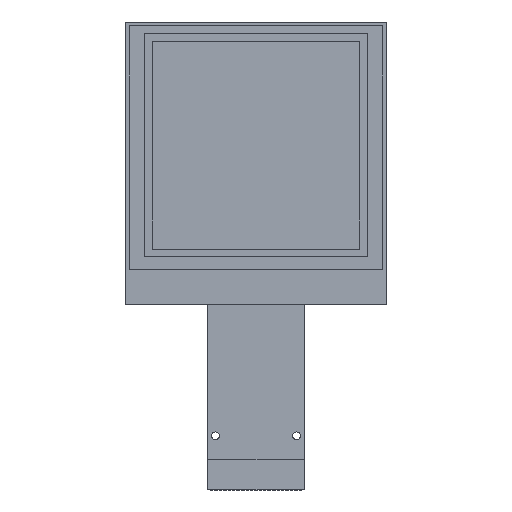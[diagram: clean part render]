
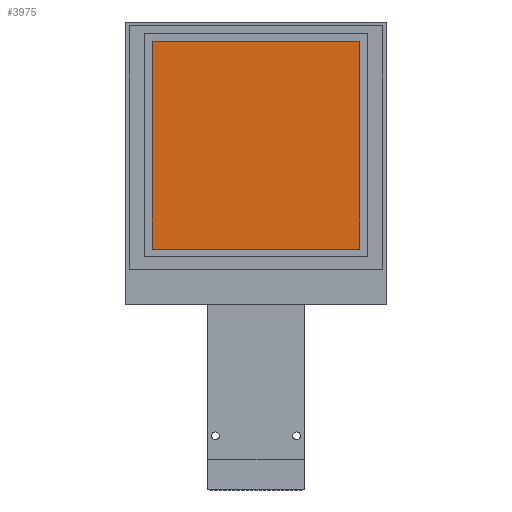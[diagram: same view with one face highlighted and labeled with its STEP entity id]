
A CAD part, top view. The second image highlights one B-rep face of the part: STEP entity #3975.
In plain terms, the highlighted planar face has unit normal (0, 0, 1).
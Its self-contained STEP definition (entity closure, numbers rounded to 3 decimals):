
#154 = LINE ( 'NONE', #4283, #1464 ) ;
#189 = DIRECTION ( 'NONE',  ( 1., 0., 0. ) ) ;
#223 = CARTESIAN_POINT ( 'NONE',  ( 0., 0., 0.95 ) ) ;
#718 = VERTEX_POINT ( 'NONE', #1379 ) ;
#837 = VERTEX_POINT ( 'NONE', #2056 ) ;
#1379 = CARTESIAN_POINT ( 'NONE',  ( 30.33, -2.5, 0.95 ) ) ;
#1464 = VECTOR ( 'NONE', #3636, 1000. ) ;
#1791 = FACE_OUTER_BOUND ( 'NONE', #4577, .T. ) ;
#2056 = CARTESIAN_POINT ( 'NONE',  ( 30.33, -29.36, 0.95 ) ) ;
#2186 = ORIENTED_EDGE ( 'NONE', *, *, #5678, .F. ) ;
#2448 = AXIS2_PLACEMENT_3D ( 'NONE', #223, #4822, #189 ) ;
#2530 = VERTEX_POINT ( 'NONE', #7204 ) ;
#2787 = LINE ( 'NONE', #5816, #4136 ) ;
#3629 = ORIENTED_EDGE ( 'NONE', *, *, #7057, .F. ) ;
#3636 = DIRECTION ( 'NONE',  ( 0., 1., 0. ) ) ;
#3972 = DIRECTION ( 'NONE',  ( -1., 0., 0. ) ) ;
#3975 = ADVANCED_FACE ( 'NONE', ( #1791 ), #4092, .T. ) ;
#4092 = PLANE ( 'NONE',  #2448 ) ;
#4136 = VECTOR ( 'NONE', #3972, 1000. ) ;
#4283 = CARTESIAN_POINT ( 'NONE',  ( 3.47, 0., 0.95 ) ) ;
#4545 = LINE ( 'NONE', #5128, #6765 ) ;
#4567 = ORIENTED_EDGE ( 'NONE', *, *, #7392, .F. ) ;
#4577 = EDGE_LOOP ( 'NONE', ( #5078, #2186, #4567, #3629 ) ) ;
#4822 = DIRECTION ( 'NONE',  ( 0., 0., 1. ) ) ;
#5078 = ORIENTED_EDGE ( 'NONE', *, *, #6104, .F. ) ;
#5128 = CARTESIAN_POINT ( 'NONE',  ( 30.33, 0., 0.95 ) ) ;
#5217 = DIRECTION ( 'NONE',  ( 0., -1., 0. ) ) ;
#5678 = EDGE_CURVE ( 'NONE', #837, #2530, #2787, .T. ) ;
#5816 = CARTESIAN_POINT ( 'NONE',  ( 0., -29.36, 0.95 ) ) ;
#6104 = EDGE_CURVE ( 'NONE', #2530, #6374, #154, .T. ) ;
#6290 = LINE ( 'NONE', #7293, #6755 ) ;
#6374 = VERTEX_POINT ( 'NONE', #7243 ) ;
#6755 = VECTOR ( 'NONE', #7333, 1000. ) ;
#6765 = VECTOR ( 'NONE', #5217, 1000. ) ;
#7057 = EDGE_CURVE ( 'NONE', #6374, #718, #6290, .T. ) ;
#7204 = CARTESIAN_POINT ( 'NONE',  ( 3.47, -29.36, 0.95 ) ) ;
#7243 = CARTESIAN_POINT ( 'NONE',  ( 3.47, -2.5, 0.95 ) ) ;
#7293 = CARTESIAN_POINT ( 'NONE',  ( 0., -2.5, 0.95 ) ) ;
#7333 = DIRECTION ( 'NONE',  ( 1., 0., 0. ) ) ;
#7392 = EDGE_CURVE ( 'NONE', #718, #837, #4545, .T. ) ;
